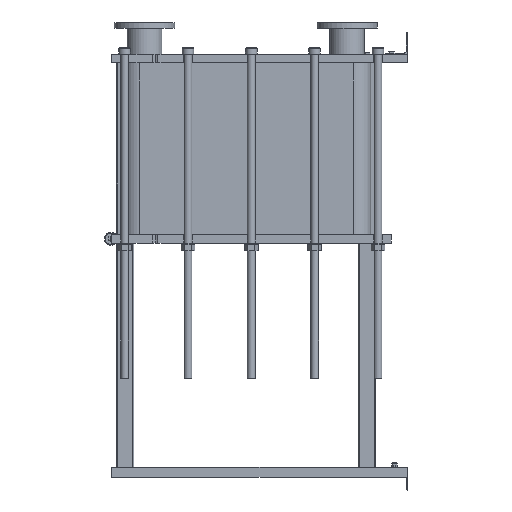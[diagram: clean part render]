
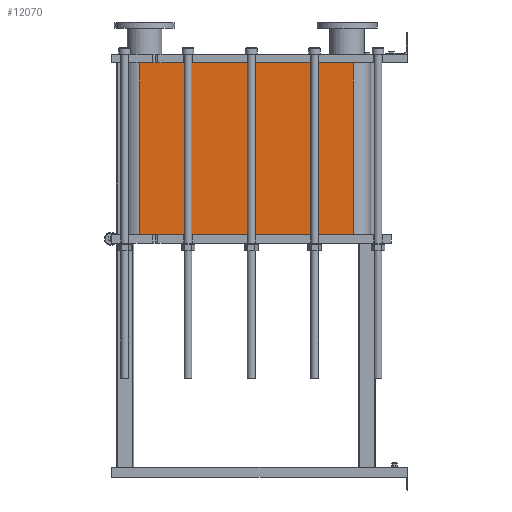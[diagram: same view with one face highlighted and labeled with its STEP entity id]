
A CAD part, left-side view. The second image highlights one B-rep face of the part: STEP entity #12070.
In plain terms, the highlighted planar face has unit normal (-1, 0, 0).
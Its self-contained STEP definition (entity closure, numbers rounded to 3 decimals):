
#1064=LINE('',#21140,#2164);
#1065=LINE('',#21144,#2165);
#1066=LINE('',#21146,#2166);
#1067=LINE('',#21147,#2167);
#2164=VECTOR('',#15790,10.);
#2165=VECTOR('',#15795,10.);
#2166=VECTOR('',#15796,10.);
#2167=VECTOR('',#15797,10.);
#3304=FACE_OUTER_BOUND('',#4091,.T.);
#4091=EDGE_LOOP('',(#9793,#9794,#9795,#9796));
#5677=VERTEX_POINT('',#21137);
#5678=VERTEX_POINT('',#21139);
#5679=VERTEX_POINT('',#21143);
#5680=VERTEX_POINT('',#21145);
#7118=EDGE_CURVE('',#5678,#5677,#1064,.T.);
#7120=EDGE_CURVE('',#5677,#5679,#1065,.T.);
#7121=EDGE_CURVE('',#5680,#5679,#1066,.T.);
#7122=EDGE_CURVE('',#5680,#5678,#1067,.T.);
#9793=ORIENTED_EDGE('',*,*,#7120,.T.);
#9794=ORIENTED_EDGE('',*,*,#7121,.F.);
#9795=ORIENTED_EDGE('',*,*,#7122,.T.);
#9796=ORIENTED_EDGE('',*,*,#7118,.T.);
#11441=PLANE('',#13191);
#12070=ADVANCED_FACE('',(#3304),#11441,.T.);
#13191=AXIS2_PLACEMENT_3D('',#21142,#15793,#15794);
#15790=DIRECTION('',(0.,0.,-1.));
#15793=DIRECTION('center_axis',(-1.,0.,0.));
#15794=DIRECTION('ref_axis',(0.,1.,0.));
#15795=DIRECTION('',(0.,-1.,0.));
#15796=DIRECTION('',(0.,0.,-1.));
#15797=DIRECTION('',(0.,1.,0.));
#21137=CARTESIAN_POINT('',(-248.152,1243.818,-796.95));
#21139=CARTESIAN_POINT('',(-248.152,1243.818,0.));
#21140=CARTESIAN_POINT('',(-248.152,1243.818,0.));
#21142=CARTESIAN_POINT('Origin',(-248.152,251.818,0.));
#21143=CARTESIAN_POINT('',(-248.152,251.818,-796.95));
#21144=CARTESIAN_POINT('',(-248.152,499.818,-796.95));
#21145=CARTESIAN_POINT('',(-248.152,251.818,0.));
#21146=CARTESIAN_POINT('',(-248.152,251.818,0.));
#21147=CARTESIAN_POINT('',(-248.152,251.818,0.));
